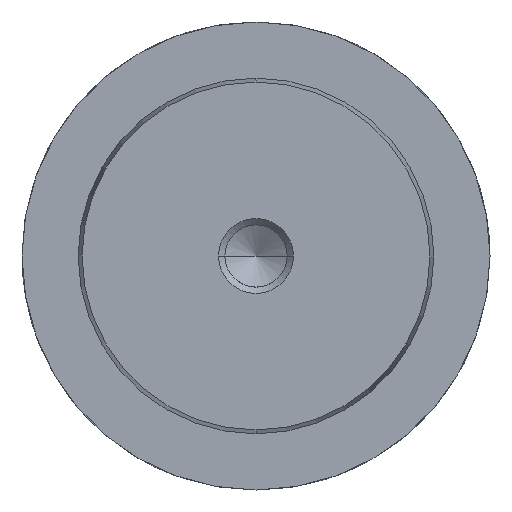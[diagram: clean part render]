
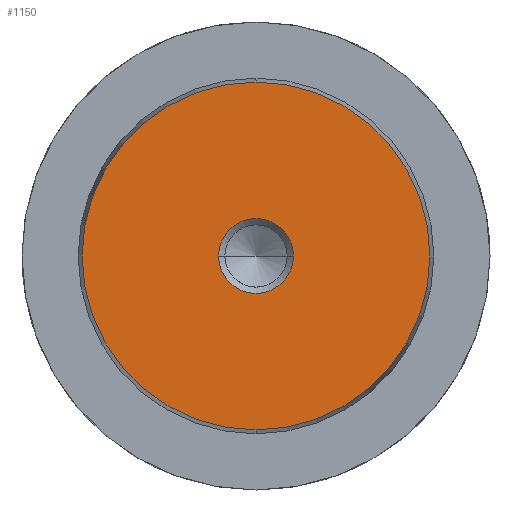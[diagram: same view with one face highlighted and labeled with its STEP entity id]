
A CAD part, left-side view. The second image highlights one B-rep face of the part: STEP entity #1150.
In plain terms, the highlighted planar face has unit normal (-1, 0, 0).
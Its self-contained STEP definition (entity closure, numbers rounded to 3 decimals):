
#1064=CARTESIAN_POINT('Vertex',(0.,0.,-18.578)) ;
#1067=CARTESIAN_POINT('Axis2P3D Location',(0.,0.,0.)) ;
#1071=CARTESIAN_POINT('Vertex',(0.,18.578,0.)) ;
#1074=CARTESIAN_POINT('Axis2P3D Location',(0.,0.,0.)) ;
#1078=CARTESIAN_POINT('Vertex',(0.,0.,18.578)) ;
#1100=CARTESIAN_POINT('Axis2P3D Location',(0.,0.,0.)) ;
#1104=CARTESIAN_POINT('Vertex',(0.,-18.578,0.)) ;
#1107=CARTESIAN_POINT('Axis2P3D Location',(0.,0.,0.)) ;
#1121=CARTESIAN_POINT('Axis2P3D Location',(0.,0.,0.)) ;
#1132=CARTESIAN_POINT('Axis2P3D Location',(0.,0.,0.)) ;
#1136=CARTESIAN_POINT('Vertex',(0.,4.,0.)) ;
#1138=CARTESIAN_POINT('Vertex',(0.,-4.,0.)) ;
#1141=CARTESIAN_POINT('Axis2P3D Location',(0.,0.,0.)) ;
#1068=DIRECTION('Axis2P3D Direction',(1.,0.,-0.)) ;
#1075=DIRECTION('Axis2P3D Direction',(1.,0.,-0.)) ;
#1101=DIRECTION('Axis2P3D Direction',(1.,0.,-0.)) ;
#1108=DIRECTION('Axis2P3D Direction',(1.,0.,-0.)) ;
#1122=DIRECTION('Axis2P3D Direction',(1.,0.,-0.)) ;
#1123=DIRECTION('Axis2P3D XDirection',(-0.,0.,-1.)) ;
#1133=DIRECTION('Axis2P3D Direction',(1.,0.,-0.)) ;
#1142=DIRECTION('Axis2P3D Direction',(1.,0.,-0.)) ;
#1069=AXIS2_PLACEMENT_3D('Circle Axis2P3D',#1067,#1068,$) ;
#1076=AXIS2_PLACEMENT_3D('Circle Axis2P3D',#1074,#1075,$) ;
#1102=AXIS2_PLACEMENT_3D('Circle Axis2P3D',#1100,#1101,$) ;
#1109=AXIS2_PLACEMENT_3D('Circle Axis2P3D',#1107,#1108,$) ;
#1124=AXIS2_PLACEMENT_3D('Plane Axis2P3D',#1121,#1122,#1123) ;
#1134=AXIS2_PLACEMENT_3D('Circle Axis2P3D',#1132,#1133,$) ;
#1143=AXIS2_PLACEMENT_3D('Circle Axis2P3D',#1141,#1142,$) ;
#1127=ORIENTED_EDGE('',*,*,#1073,.F.) ;
#1128=ORIENTED_EDGE('',*,*,#1111,.F.) ;
#1129=ORIENTED_EDGE('',*,*,#1106,.F.) ;
#1130=ORIENTED_EDGE('',*,*,#1080,.F.) ;
#1147=ORIENTED_EDGE('',*,*,#1140,.T.) ;
#1148=ORIENTED_EDGE('',*,*,#1145,.T.) ;
#1149=FACE_BOUND('',#1146,.T.) ;
#1150=ADVANCED_FACE('718-38x250',(#1131,#1149),#1125,.F.) ;
#1070=CIRCLE('generated circle',#1069,18.578) ;
#1077=CIRCLE('generated circle',#1076,18.578) ;
#1103=CIRCLE('generated circle',#1102,18.578) ;
#1110=CIRCLE('generated circle',#1109,18.578) ;
#1135=CIRCLE('generated circle',#1134,4.) ;
#1144=CIRCLE('generated circle',#1143,4.) ;
#1073=EDGE_CURVE('',#1065,#1072,#1070,.T.) ;
#1080=EDGE_CURVE('',#1072,#1079,#1077,.T.) ;
#1106=EDGE_CURVE('',#1079,#1105,#1103,.T.) ;
#1111=EDGE_CURVE('',#1105,#1065,#1110,.T.) ;
#1140=EDGE_CURVE('',#1137,#1139,#1135,.T.) ;
#1145=EDGE_CURVE('',#1139,#1137,#1144,.T.) ;
#1126=EDGE_LOOP('',(#1127,#1128,#1129,#1130)) ;
#1146=EDGE_LOOP('',(#1147,#1148)) ;
#1131=FACE_OUTER_BOUND('',#1126,.T.) ;
#1125=PLANE('Plane',#1124) ;
#1065=VERTEX_POINT('',#1064) ;
#1072=VERTEX_POINT('',#1071) ;
#1079=VERTEX_POINT('',#1078) ;
#1105=VERTEX_POINT('',#1104) ;
#1137=VERTEX_POINT('',#1136) ;
#1139=VERTEX_POINT('',#1138) ;
